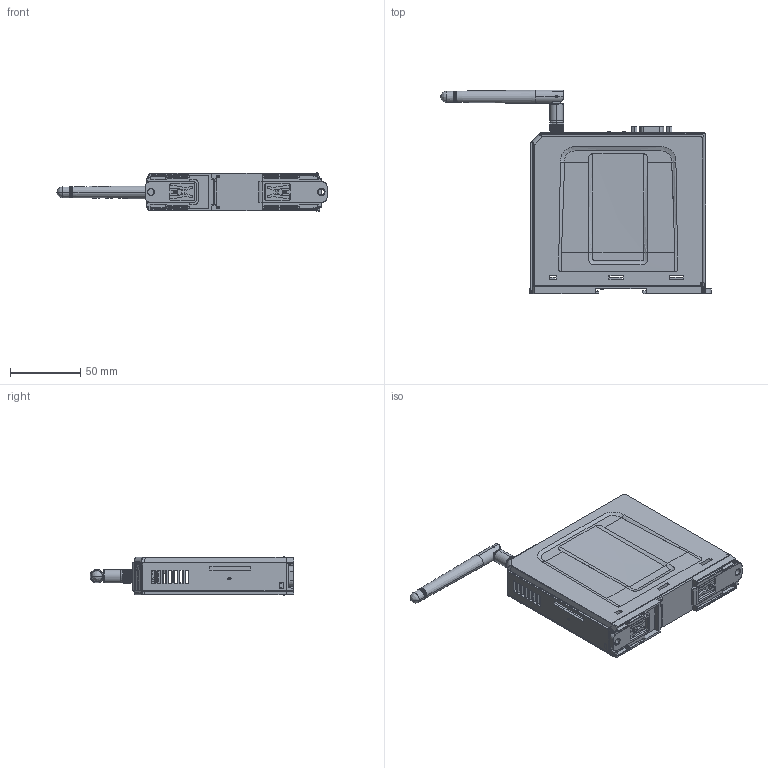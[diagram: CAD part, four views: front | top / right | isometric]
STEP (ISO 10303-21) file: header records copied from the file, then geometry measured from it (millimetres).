
FILE_DESCRIPTION (( 'STEP AP214' ), '1' );
FILE_NAME ('CMT-SVR-200-202.STEP', '2020-07-17T00:12:23', ( '' ), ( '' ), 'SwSTEP 2.0', 'SolidWorks 2019', '' );
FILE_SCHEMA (( 'AUTOMOTIVE_DESIGN' ));
Length unit declared in the file: inch
Products named in the file (1): CMT-SVR-200-202
Bounding box: 192.65 x 145.23 x 27.17 mm (x, y, z)
Surface area: 86867.4 mm2 (no closed solid volume)
Topology: 0 solids, 277 shells, 1474 faces, 6273 edges, 5005 vertices
Faces by surface type: plane 843, cylinder 339, cone 135, bspline 118, torus 30, sphere 9
Entity records: 102803 total; most frequent: CARTESIAN_POINT 34979, ORIENTED_EDGE 9363, DIRECTION 9102, EDGE_CURVE 6249, VERTEX_POINT 5001, VECTOR 3968, LINE 3968, AXIS2_PLACEMENT_3D 2567
